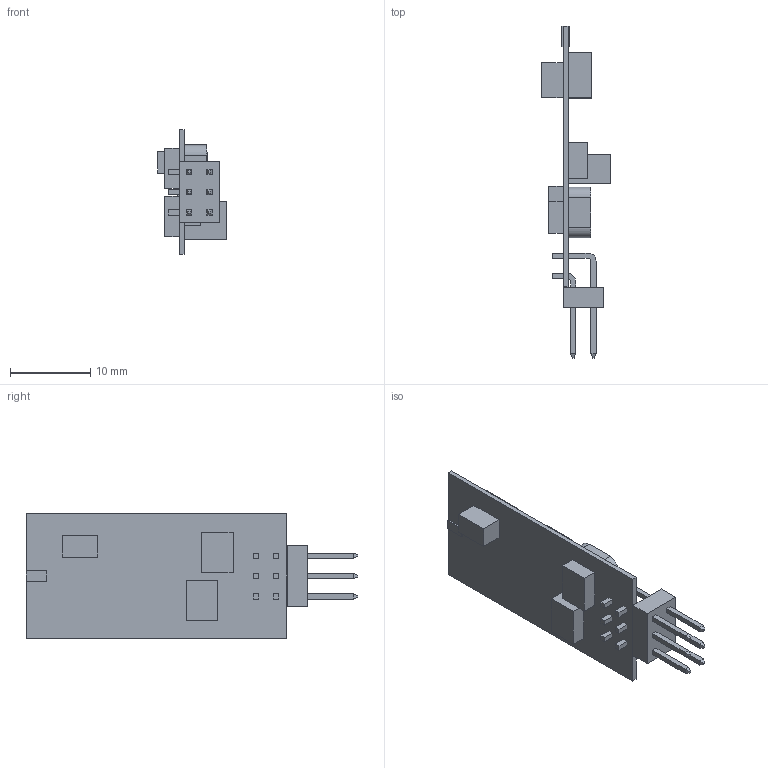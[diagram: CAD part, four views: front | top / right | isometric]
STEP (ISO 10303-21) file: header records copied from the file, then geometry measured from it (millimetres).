
FILE_DESCRIPTION((''),'2;1');
FILE_NAME('LDP-V_40-70_CT','2017-01-24T11:33:26',('picolas'),('In4Tec_mbH'),'PRO/ENGINEER BY PARAMETRIC TECHNOLOGY CORPORATION, 2005030','PRO/ENGINEER BY PARAMETRIC TECHNOLOGY CORPORATION, 2005030','');
FILE_SCHEMA(('CONFIG_CONTROL_DESIGN'));
Length unit declared in the file: millimetre
Products named in the file (1): LDP-V_40-70_CT
Bounding box: 8.58 x 41.27 x 15.5 mm (x, y, z)
Volume: 955.3 mm3; surface area: 2227.6 mm2
Topology: 11 solids, 11 shells, 202 faces, 475 edges, 309 vertices
Faces by surface type: plane 180, cylinder 20, cone 2
Entity records: 5707 total; most frequent: CARTESIAN_POINT 1002, ORIENTED_EDGE 950, DIRECTION 921, EDGE_CURVE 475, VECTOR 425, LINE 425, VERTEX_POINT 309, AXIS2_PLACEMENT_3D 248
